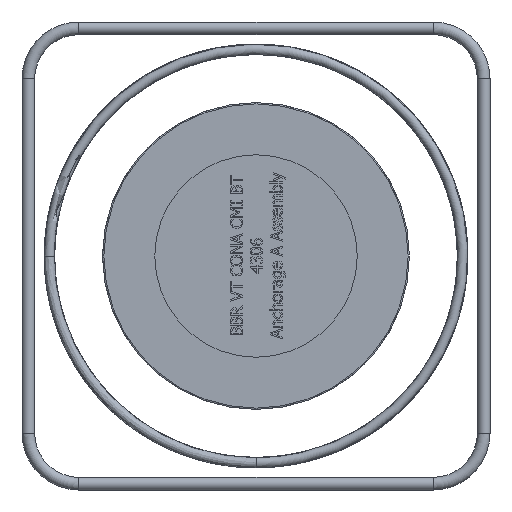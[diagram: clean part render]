
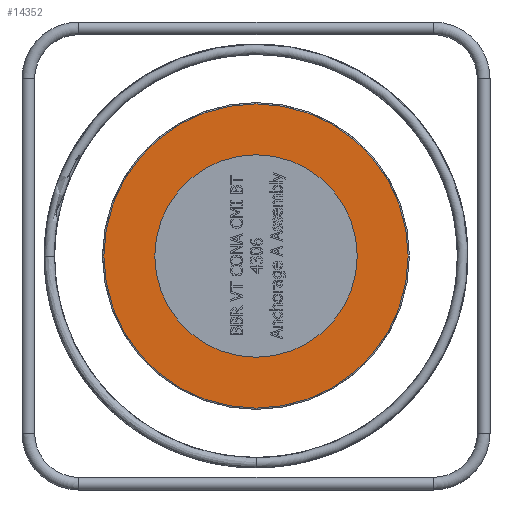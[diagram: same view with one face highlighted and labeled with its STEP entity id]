
A CAD part, left-side view. The second image highlights one B-rep face of the part: STEP entity #14352.
In plain terms, the highlighted planar face has unit normal (-1, 0, 0).
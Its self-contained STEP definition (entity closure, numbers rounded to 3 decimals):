
#2853=PLANE('',#14949);
#3710=FACE_BOUND('',#5380,.T.);
#4452=FACE_OUTER_BOUND('',#5379,.T.);
#5379=EDGE_LOOP('',(#12425));
#5380=EDGE_LOOP('',(#12426));
#5619=CIRCLE('',#14945,160.);
#5622=CIRCLE('',#14950,240.5);
#6898=VERTEX_POINT('',#30138);
#6905=VERTEX_POINT('',#30212);
#8764=EDGE_CURVE('',#6898,#6898,#5619,.T.);
#8771=EDGE_CURVE('',#6905,#6905,#5622,.T.);
#12425=ORIENTED_EDGE('',*,*,#8771,.T.);
#12426=ORIENTED_EDGE('',*,*,#8764,.T.);
#14352=ADVANCED_FACE('',(#4452,#3710),#2853,.T.);
#14945=AXIS2_PLACEMENT_3D('',#30139,#17159,#17160);
#14949=AXIS2_PLACEMENT_3D('',#30211,#17167,#17168);
#14950=AXIS2_PLACEMENT_3D('',#30213,#17169,#17170);
#17159=DIRECTION('center_axis',(1.,0.,0.));
#17160=DIRECTION('ref_axis',(0.,1.,0.));
#17167=DIRECTION('center_axis',(-1.,0.,0.));
#17168=DIRECTION('ref_axis',(0.,0.,1.));
#17169=DIRECTION('center_axis',(-1.,0.,0.));
#17170=DIRECTION('ref_axis',(0.,-1.,0.));
#30138=CARTESIAN_POINT('',(-340.,160.,0.));
#30139=CARTESIAN_POINT('Origin',(-340.,0.,0.));
#30211=CARTESIAN_POINT('Origin',(-340.,-187.5,0.));
#30212=CARTESIAN_POINT('',(-340.,-240.5,0.));
#30213=CARTESIAN_POINT('Origin',(-340.,0.,0.));
